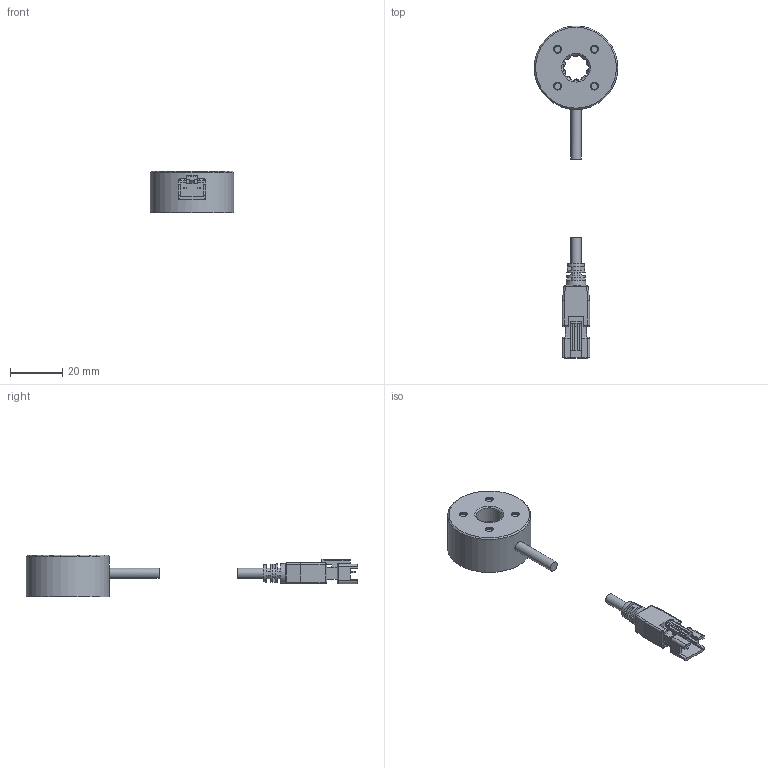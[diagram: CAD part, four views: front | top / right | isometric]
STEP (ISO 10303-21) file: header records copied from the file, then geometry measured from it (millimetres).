
FILE_DESCRIPTION(('STEP AP214'),'1');
FILE_NAME('VLR-30D32.stp','2026-04-09T02:56:23',(' '),(' '),'Spatial InterOp 3D',' ',' ');
FILE_SCHEMA(('AUTOMOTIVE_DESIGN { 1 0 10303 214 1 1 1 1 }'));
Length unit declared in the file: metre
Products named in the file (3): VLR-30D32; Component1; Component2
Assembly tree (2 placements, depth 2):
  VLR-30D32
    Component1
    Component2
Bounding box: 32 x 127.3 x 16 mm (x, y, z)
Volume: 11236.2 mm3; surface area: 7110 mm2
Topology: 2 solids, 2 shells, 230 faces, 633 edges, 415 vertices
Faces by surface type: plane 117, cylinder 67, sphere 28, cone 10, bspline 4, torus 4
Full cylindrical faces by diameter (mm): 2.5 x4, 3 x24, 3.9 x2, 10 x1, 11.5 x1, 27 x1, 29.1 x1, 32 x1
Entity records: 11603 total; most frequent: CARTESIAN_POINT 2783, DIRECTION 1001, ORIENTED_EDGE 936, STYLED_ITEM 624, PRESENTATION_STYLE_ASSIGNMENT 624, COLOUR_RGB 624, EDGE_CURVE 468, CURVE_STYLE 392
